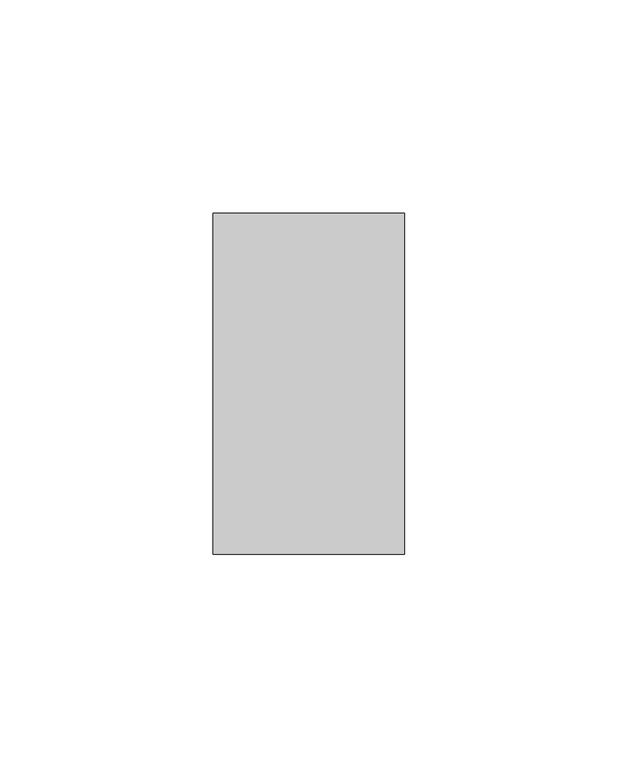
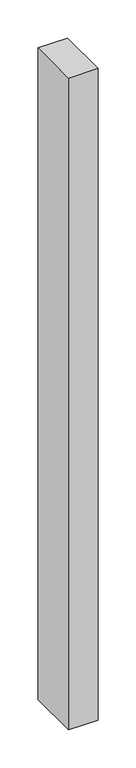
"""IFC4 building model written with IfcOpenShell, lengths in millimetres: member geometry, Obdélníková příčel : VERTI ELEMENT - vertikální."""

import ifcopenshell
import ifcopenshell.guid

model = None  # the IFC model being written
_history = None  # IfcOwnerHistory: only IFC2X3 demands one
_inside = {}  # id of a spatial element -> (the spatial element, [elements in it])
_under = {}  # id of a project, library or spatial element -> (it, [spatial elements below it])
_declared = {}  # id of a project -> (the project, [libraries it declares])
_typed = {}  # id of a type object -> (the type object, [elements of that type])
_made_of = {}  # id of a material, layer set ... -> (it, [elements and type objects made of it])


def new_model(schema):
    """Start an empty IFC model of exactly this schema.

    Asked for "IFC4X3", IfcOpenShell would pick the latest addendum, in which some entities
    have other attributes; the version numbers below select the first issue.
    IFC2X3 requires an IfcOwnerHistory on every rooted entity: one is made here for all.
    """
    global model, _history
    if schema == "IFC4X3":
        model = ifcopenshell.file(schema_version=(4, 3, 0, 0))
    else:
        model = ifcopenshell.file(schema=schema)
    _inside.clear()
    _under.clear()
    _declared.clear()
    _typed.clear()
    _made_of.clear()
    _history = None
    if model.schema == "IFC2X3":
        org = make("IfcOrganization", Name="unknown")
        user = make(
            "IfcPersonAndOrganization",
            ThePerson=make("IfcPerson", FamilyName="unknown"),
            TheOrganization=org,
        )
        app = make(
            "IfcApplication",
            ApplicationDeveloper=org,
            Version="unknown",
            ApplicationFullName="unknown",
            ApplicationIdentifier="unknown",
        )
        _history = make(
            "IfcOwnerHistory",
            OwningUser=user,
            OwningApplication=app,
            ChangeAction="ADDED",
            CreationDate=0,
        )
    return model


def make(cls, **values):
    """One entity of the class cls with the attributes given. An attribute that is None is left unset."""
    return model.create_entity(
        cls, **{name: value for name, value in values.items() if value is not None}
    )


def rooted(cls, **values):
    """An entity with a GlobalId (a new one), such as an element, a storey or a relation."""
    return make(cls, GlobalId=ifcopenshell.guid.new(), OwnerHistory=_history, **values)


def si_unit(unit_type, name, prefix=None):
    """IfcSIUnit, for example si_unit("LENGTHUNIT", "METRE", prefix="MILLI")."""
    return make("IfcSIUnit", UnitType=unit_type, Prefix=prefix, Name=name)


def assignment(units):
    """IfcUnitAssignment: the units of a project."""
    return None if units is None else make("IfcUnitAssignment", Units=units)


def point(xyz):
    """IfcCartesianPoint."""
    return None if xyz is None else make("IfcCartesianPoint", Coordinates=xyz)


def direction(xyz):
    """IfcDirection."""
    return None if xyz is None else make("IfcDirection", DirectionRatios=xyz)


def frame(location, z_axis=None, x_axis=None):
    """IfcAxis2Placement3D, a coordinate frame: its origin and axes. An axis left out is left unset."""
    return make(
        "IfcAxis2Placement3D",
        Location=point(location),
        Axis=direction(z_axis),
        RefDirection=direction(x_axis),
    )


def origin():
    """The frame at (0, 0, 0) with its axes left unset."""
    return frame((0.0, 0.0, 0.0))


def place(relative_to, where):
    """IfcLocalPlacement: puts the frame where relative to a parent placement (None: the world)."""
    return make(
        "IfcLocalPlacement", PlacementRelTo=relative_to, RelativePlacement=where
    )


def context(
    kind, dimensions, precision=None, world=None, true_north=None, identifier=None
):
    """IfcGeometricRepresentationContext, for example the 3D "Model" context."""
    return make(
        "IfcGeometricRepresentationContext",
        ContextIdentifier=identifier,
        ContextType=kind,
        CoordinateSpaceDimension=dimensions,
        Precision=precision,
        WorldCoordinateSystem=world,
        TrueNorth=true_north,
    )


def project(units=None, contexts=None):
    """IfcProject with its units and contexts."""
    return rooted(
        "IfcProject",
        Name="project",
        RepresentationContexts=contexts,
        UnitsInContext=assignment(units),
    )


def spatial(cls, under=None, at=None, **own):
    """A site, building, storey or space (cls), placed at a placement, below another one or the project."""
    s = rooted(cls, ObjectPlacement=at, **own)
    if under is not None:
        _under.setdefault(under.id(), (under, []))[1].append(s)
    return s


def polyline(points):
    """IfcPolyline through the points."""
    return make("IfcPolyline", Points=[point(p) for p in points])


def outline(outer, holes=None, kind="AREA"):
    """IfcArbitraryClosedProfileDef: a profile drawn as a closed curve; with holes, ...WithVoids."""
    if holes is None:
        return make("IfcArbitraryClosedProfileDef", ProfileType=kind, OuterCurve=outer)
    return make(
        "IfcArbitraryProfileDefWithVoids",
        ProfileType=kind,
        OuterCurve=outer,
        InnerCurves=holes,
    )


def extrude(swept, where, along, depth):
    """IfcExtrudedAreaSolid: the profile swept, set in the frame where, extruded along a direction by depth."""
    return make(
        "IfcExtrudedAreaSolid",
        SweptArea=swept,
        Position=where,
        ExtrudedDirection=direction(along),
        Depth=depth,
    )


def shape(context_of_items, identifier, shape_type, items):
    """IfcShapeRepresentation: the items that make up one representation, for example the "Body"."""
    return make(
        "IfcShapeRepresentation",
        ContextOfItems=context_of_items,
        RepresentationIdentifier=identifier,
        RepresentationType=shape_type,
        Items=items,
    )


def source(mapping_origin, context_of_items, identifier, shape_type, items):
    """IfcRepresentationMap: a shape defined once, which mapped items show again and again."""
    return make(
        "IfcRepresentationMap",
        MappingOrigin=mapping_origin,
        MappedRepresentation=shape(context_of_items, identifier, shape_type, items),
    )


def transform(
    local_origin,
    x_axis=None,
    y_axis=None,
    z_axis=None,
    scale=None,
    scale2=None,
    scale3=None,
    uniform=True,
):
    """IfcCartesianTransformationOperator3D, or its non-uniform kind. x_axis, y_axis, z_axis: its Axis1, 2, 3."""
    if uniform:
        return make(
            "IfcCartesianTransformationOperator3D",
            Axis1=direction(x_axis),
            Axis2=direction(y_axis),
            LocalOrigin=point(local_origin),
            Scale=scale,
            Axis3=direction(z_axis),
        )
    return make(
        "IfcCartesianTransformationOperator3DnonUniform",
        Axis1=direction(x_axis),
        Axis2=direction(y_axis),
        LocalOrigin=point(local_origin),
        Scale=scale,
        Axis3=direction(z_axis),
        Scale2=scale2,
        Scale3=scale3,
    )


def mapped(mapping_source, mapping_target):
    """IfcMappedItem: shows the shape of a source again, moved by a transform."""
    return make(
        "IfcMappedItem", MappingSource=mapping_source, MappingTarget=mapping_target
    )


def made_of(thing, what):
    """Note that an element or type object is made of a material, layer set ...; save() writes the relation."""
    if what is not None:
        _made_of.setdefault(what.id(), (what, []))[1].append(thing)
    return thing


def element(
    cls,
    number,
    at=None,
    inside=None,
    cuts=None,
    type_object=None,
    material=None,
    context=None,
    identifier="Body",
    shape_type=None,
    held_by="IfcProductDefinitionShape",
    body=None,
    shapes=None,
    **own,
):
    """One element of the class cls, such as IfcWall. Its Tag is "e" and its number.

    at: its placement. inside: the storey or other place that contains it. cuts: it is an
    opening in that element (IfcRelVoidsElement). A single representation is given by context,
    identifier, shape_type and body (its items); several are given by shapes. held_by: the class
    of the entity that holds the representations. save() writes the other relations.
    """
    e = rooted(cls, Tag="e%d" % number, ObjectPlacement=at, **own)
    if body is not None:
        shapes = [shape(context, identifier, shape_type, body)]
    if shapes is not None:
        e.Representation = make(held_by, Representations=shapes)
    if inside is not None:
        _inside.setdefault(inside.id(), (inside, []))[1].append(e)
    if cuts is not None:
        rooted(
            "IfcRelVoidsElement", RelatingBuildingElement=cuts, RelatedOpeningElement=e
        )
    if type_object is not None:
        _typed.setdefault(type_object.id(), (type_object, []))[1].append(e)
    return made_of(e, material)


def aggregate(whole, parts):
    """IfcRelAggregates: a whole, such as a stair, and the parts it consists of."""
    return rooted("IfcRelAggregates", RelatingObject=whole, RelatedObjects=parts)


def save(model, path):
    """Write the relations noted so far, then the file.

    IfcRelAggregates (storeys below a building ...), IfcRelContainedInSpatialStructure (elements
    in a storey), IfcRelDefinesByType, IfcRelAssociatesMaterial and IfcRelDeclares: one each for
    every whole, place, type object, material and project.
    """
    for whole, parts in _under.values():
        aggregate(whole, parts)
    for where, things in _inside.values():
        rooted(
            "IfcRelContainedInSpatialStructure",
            RelatedElements=things,
            RelatingStructure=where,
        )
    for kind, things in _typed.values():
        rooted("IfcRelDefinesByType", RelatedObjects=things, RelatingType=kind)
    for what, things in _made_of.values():
        rooted("IfcRelAssociatesMaterial", RelatedObjects=things, RelatingMaterial=what)
    for by, libraries in _declared.values():
        rooted("IfcRelDeclares", RelatingContext=by, RelatedDefinitions=libraries)
    model.write(path)


def member_cbec5030(model_context):
    return source(origin(), model_context, "Body", "SweptSolid", [
        extrude(outline(polyline([(-45.0, 40.0), (0.0, 40.0), (0.0, -40.0), (-45.0, -40.0), (-45.0, 40.0)])), frame((0.0, 0.0, -1045.0), z_axis=(0.0, 0.0, 1.0), x_axis=(1.0, 0.0, 0.0)), (0.0, 0.0, 1.0), 1045.0),
    ])


if __name__ == "__main__":
    model = new_model("IFC4")
    model_context = context("Model", 3, world=origin())
    ifc_project = project(units=[si_unit("LENGTHUNIT", "METRE", prefix="MILLI")], contexts=[model_context])
    site = spatial("IfcSite", under=ifc_project)
    building = spatial("IfcBuilding", under=site)
    placement = place(None, origin())
    member_shape = member_cbec5030(model_context)
    element("IfcMember", 1, ObjectType="Obdélníková příčel : VERTI ELEMENT - vertikální", at=placement, inside=building, context=model_context, shape_type="MappedRepresentation", body=[
        mapped(member_shape, transform((0.0, 0.0, 0.0), x_axis=(1.0, 0.0, 0.0), y_axis=(0.0, 1.0, 0.0), z_axis=(0.0, 0.0, 1.0))),
    ])
    save(model, "model.ifc")
